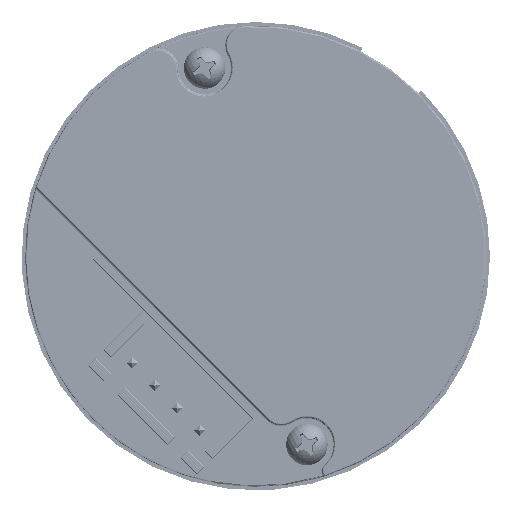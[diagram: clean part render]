
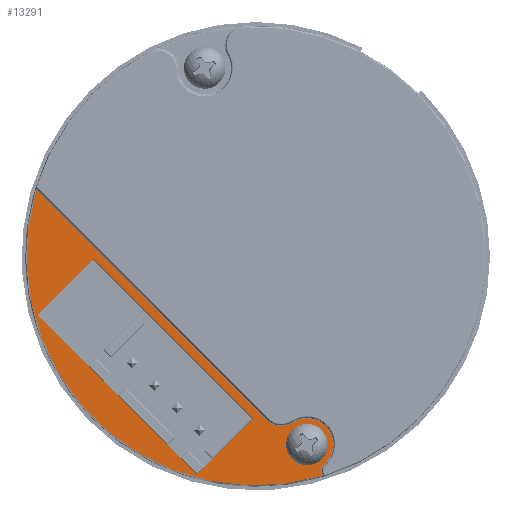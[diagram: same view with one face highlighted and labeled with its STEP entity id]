
A CAD part, front view. The second image highlights one B-rep face of the part: STEP entity #13291.
In plain terms, the highlighted planar face has unit normal (0, -1, 0) as drawn and (0, 0, 1) by its records, which use the part's own axes.
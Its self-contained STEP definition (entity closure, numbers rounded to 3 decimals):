
#1174 = ORIENTED_EDGE ( 'NONE', *, *, #62490, .T. ) ;
#1268 = DIRECTION ( 'NONE',  ( 0., 0., -1. ) ) ;
#2841 = CIRCLE ( 'NONE', #10742, 18.35 ) ;
#5689 = ORIENTED_EDGE ( 'NONE', *, *, #48824, .T. ) ;
#8820 = CARTESIAN_POINT ( 'NONE',  ( 13.55, -7.761, -6.45 ) ) ;
#9510 = FACE_BOUND ( 'NONE', #24585, .T. ) ;
#9981 = VERTEX_POINT ( 'NONE', #133789 ) ;
#10514 = VERTEX_POINT ( 'NONE', #63290 ) ;
#10742 = AXIS2_PLACEMENT_3D ( 'NONE', #60950, #87022, #75789 ) ;
#12077 = CARTESIAN_POINT ( 'NONE',  ( 9., -9.35, -6.45 ) ) ;
#12274 = VECTOR ( 'NONE', #38467, 1000. ) ;
#12328 = DIRECTION ( 'NONE',  ( 0., 0., -1. ) ) ;
#12991 = ORIENTED_EDGE ( 'NONE', *, *, #91356, .T. ) ;
#13291 = ADVANCED_FACE ( 'NONE', ( #40714, #62826, #9510 ), #148341, .T. ) ;
#13834 = AXIS2_PLACEMENT_3D ( 'NONE', #8820, #101195, #102227 ) ;
#14834 = CARTESIAN_POINT ( 'NONE',  ( -16.349, -8.65, -6.45 ) ) ;
#15765 = CARTESIAN_POINT ( 'NONE',  ( 13.55, -6.261, -6.45 ) ) ;
#17020 = CARTESIAN_POINT ( 'NONE',  ( -9.02, -9.37, -6.45 ) ) ;
#17627 = CIRCLE ( 'NONE', #109245, 1.629 ) ;
#18479 = DIRECTION ( 'NONE',  ( 0., 0., 1. ) ) ;
#19119 = EDGE_CURVE ( 'NONE', #137925, #115780, #79366, .T. ) ;
#19723 = CARTESIAN_POINT ( 'NONE',  ( -9.02, -9.35, -6.45 ) ) ;
#24032 = ORIENTED_EDGE ( 'NONE', *, *, #47693, .T. ) ;
#24585 = EDGE_LOOP ( 'NONE', ( #28659, #77487 ) ) ;
#24649 = CARTESIAN_POINT ( 'NONE',  ( 9.02, -15.67, -6.45 ) ) ;
#26953 = CARTESIAN_POINT ( 'NONE',  ( 9.905, -7.021, -6.45 ) ) ;
#27245 = VECTOR ( 'NONE', #126557, 1000. ) ;
#27623 = VERTEX_POINT ( 'NONE', #19723 ) ;
#28659 = ORIENTED_EDGE ( 'NONE', *, *, #19119, .F. ) ;
#29943 = ORIENTED_EDGE ( 'NONE', *, *, #72272, .T. ) ;
#32137 = CIRCLE ( 'NONE', #92266, 0.715 ) ;
#34952 = DIRECTION ( 'NONE',  ( 0., -1., 0. ) ) ;
#36245 = DIRECTION ( 'NONE',  ( 1., 0., 0. ) ) ;
#38467 = DIRECTION ( 'NONE',  ( -1., 0., 0. ) ) ;
#40714 = FACE_OUTER_BOUND ( 'NONE', #75757, .T. ) ;
#40860 = CARTESIAN_POINT ( 'NONE',  ( -16.183, -8.65, -6.45 ) ) ;
#44558 = LINE ( 'NONE', #17020, #51897 ) ;
#47693 = EDGE_CURVE ( 'NONE', #116034, #110065, #86246, .T. ) ;
#47828 = LINE ( 'NONE', #24649, #75367 ) ;
#48824 = EDGE_CURVE ( 'NONE', #49673, #10514, #87840, .T. ) ;
#49673 = VERTEX_POINT ( 'NONE', #142262 ) ;
#51575 = CARTESIAN_POINT ( 'NONE',  ( 13.55, -7.761, -6.45 ) ) ;
#51897 = VECTOR ( 'NONE', #64237, 1000. ) ;
#52906 = CARTESIAN_POINT ( 'NONE',  ( 13.55, -7.761, -6.45 ) ) ;
#52959 = CARTESIAN_POINT ( 'NONE',  ( 0., 0., -6.45 ) ) ;
#53002 = EDGE_CURVE ( 'NONE', #10514, #27623, #44558, .T. ) ;
#57803 = AXIS2_PLACEMENT_3D ( 'NONE', #51575, #84970, #108096 ) ;
#60950 = CARTESIAN_POINT ( 'NONE',  ( 0., 0., -6.45 ) ) ;
#62490 = EDGE_CURVE ( 'NONE', #9981, #74136, #32137, .T. ) ;
#62826 = FACE_BOUND ( 'NONE', #101294, .T. ) ;
#63290 = CARTESIAN_POINT ( 'NONE',  ( -9.02, -15.69, -6.45 ) ) ;
#64237 = DIRECTION ( 'NONE',  ( 0., 1., 0. ) ) ;
#65264 = AXIS2_PLACEMENT_3D ( 'NONE', #52906, #18479, #136066 ) ;
#68287 = EDGE_CURVE ( 'NONE', #74136, #116034, #108459, .T. ) ;
#72272 = EDGE_CURVE ( 'NONE', #119051, #83799, #131548, .T. ) ;
#73060 = LINE ( 'NONE', #12077, #137264 ) ;
#74136 = VERTEX_POINT ( 'NONE', #140485 ) ;
#74305 = EDGE_CURVE ( 'NONE', #115780, #137925, #115006, .T. ) ;
#74758 = CARTESIAN_POINT ( 'NONE',  ( 9.02, -9.35, -6.45 ) ) ;
#75367 = VECTOR ( 'NONE', #34952, 1000. ) ;
#75757 = EDGE_LOOP ( 'NONE', ( #1174, #90305, #24032, #79548, #29943, #12991 ) ) ;
#75789 = DIRECTION ( 'NONE',  ( 1., 0., 0. ) ) ;
#77487 = ORIENTED_EDGE ( 'NONE', *, *, #74305, .F. ) ;
#79326 = CARTESIAN_POINT ( 'NONE',  ( 15.64, -7.761, -6.45 ) ) ;
#79366 = CIRCLE ( 'NONE', #57803, 1.5 ) ;
#79548 = ORIENTED_EDGE ( 'NONE', *, *, #139448, .T. ) ;
#83799 = VERTEX_POINT ( 'NONE', #40860 ) ;
#84970 = DIRECTION ( 'NONE',  ( 0., 0., 1. ) ) ;
#86246 = CIRCLE ( 'NONE', #65264, 2.09 ) ;
#86628 = ORIENTED_EDGE ( 'NONE', *, *, #102830, .T. ) ;
#87022 = DIRECTION ( 'NONE',  ( 0., 0., 1. ) ) ;
#87840 = LINE ( 'NONE', #150126, #27245 ) ;
#89912 = VERTEX_POINT ( 'NONE', #74758 ) ;
#90305 = ORIENTED_EDGE ( 'NONE', *, *, #68287, .T. ) ;
#91356 = EDGE_CURVE ( 'NONE', #83799, #9981, #2841, .T. ) ;
#92266 = AXIS2_PLACEMENT_3D ( 'NONE', #142647, #12328, #106277 ) ;
#96801 = AXIS2_PLACEMENT_3D ( 'NONE', #126229, #137091, #103178 ) ;
#101195 = DIRECTION ( 'NONE',  ( 0., 0., 1. ) ) ;
#101294 = EDGE_LOOP ( 'NONE', ( #5689, #128531, #144764, #86628 ) ) ;
#102227 = DIRECTION ( 'NONE',  ( 0., -1., 0. ) ) ;
#102830 = EDGE_CURVE ( 'NONE', #89912, #49673, #47828, .T. ) ;
#103178 = DIRECTION ( 'NONE',  ( 1., 0., 0. ) ) ;
#105697 = CARTESIAN_POINT ( 'NONE',  ( 13.55, -9.261, -6.45 ) ) ;
#106277 = DIRECTION ( 'NONE',  ( 1., 0., 0. ) ) ;
#107432 = CARTESIAN_POINT ( 'NONE',  ( 11.502, -7.345, -6.45 ) ) ;
#108096 = DIRECTION ( 'NONE',  ( 0., -1., 0. ) ) ;
#108459 = CIRCLE ( 'NONE', #96801, 2.09 ) ;
#109245 = AXIS2_PLACEMENT_3D ( 'NONE', #26953, #1268, #143414 ) ;
#110065 = VERTEX_POINT ( 'NONE', #107432 ) ;
#115006 = CIRCLE ( 'NONE', #13834, 1.5 ) ;
#115780 = VERTEX_POINT ( 'NONE', #15765 ) ;
#116034 = VERTEX_POINT ( 'NONE', #79326 ) ;
#119051 = VERTEX_POINT ( 'NONE', #145323 ) ;
#120043 = AXIS2_PLACEMENT_3D ( 'NONE', #52959, #137143, #147329 ) ;
#126229 = CARTESIAN_POINT ( 'NONE',  ( 13.55, -7.761, -6.45 ) ) ;
#126557 = DIRECTION ( 'NONE',  ( -1., 0., 0. ) ) ;
#128531 = ORIENTED_EDGE ( 'NONE', *, *, #53002, .T. ) ;
#131548 = LINE ( 'NONE', #14834, #12274 ) ;
#133789 = CARTESIAN_POINT ( 'NONE',  ( 16.193, -8.633, -6.45 ) ) ;
#136066 = DIRECTION ( 'NONE',  ( 1., 0., 0. ) ) ;
#137091 = DIRECTION ( 'NONE',  ( 0., 0., 1. ) ) ;
#137143 = DIRECTION ( 'NONE',  ( 0., 0., 1. ) ) ;
#137264 = VECTOR ( 'NONE', #36245, 1000. ) ;
#137925 = VERTEX_POINT ( 'NONE', #105697 ) ;
#138488 = EDGE_CURVE ( 'NONE', #27623, #89912, #73060, .T. ) ;
#139448 = EDGE_CURVE ( 'NONE', #110065, #119051, #17627, .T. ) ;
#140485 = CARTESIAN_POINT ( 'NONE',  ( 15.636, -7.891, -6.45 ) ) ;
#142262 = CARTESIAN_POINT ( 'NONE',  ( 9.02, -15.69, -6.45 ) ) ;
#142647 = CARTESIAN_POINT ( 'NONE',  ( 16.349, -7.935, -6.45 ) ) ;
#143414 = DIRECTION ( 'NONE',  ( 1., 0., 0. ) ) ;
#144764 = ORIENTED_EDGE ( 'NONE', *, *, #138488, .T. ) ;
#145323 = CARTESIAN_POINT ( 'NONE',  ( 9.905, -8.65, -6.45 ) ) ;
#147329 = DIRECTION ( 'NONE',  ( 0., -1., 0. ) ) ;
#148341 = PLANE ( 'NONE',  #120043 ) ;
#150126 = CARTESIAN_POINT ( 'NONE',  ( -9., -15.69, -6.45 ) ) ;
